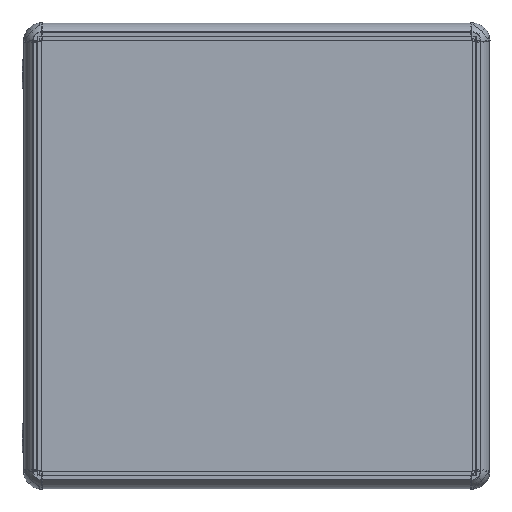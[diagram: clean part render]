
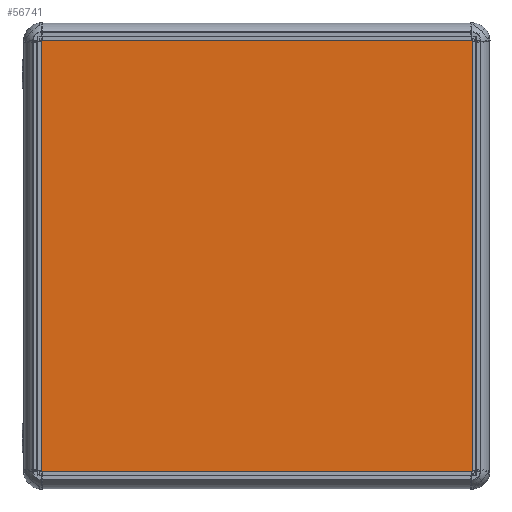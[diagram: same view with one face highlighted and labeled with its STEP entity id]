
A CAD part, top view. The second image highlights one B-rep face of the part: STEP entity #56741.
In plain terms, the highlighted planar face has unit normal (0, 0, 1).
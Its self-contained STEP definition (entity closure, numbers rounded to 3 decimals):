
#2783 = FACE_OUTER_BOUND ( 'NONE', #101855, .T. ) ;
#3227 = DIRECTION ( 'NONE',  ( 0., 1., 0. ) ) ;
#6971 = CARTESIAN_POINT ( 'NONE',  ( 300., -300., 2. ) ) ;
#13001 = EDGE_CURVE ( 'NONE', #145265, #113549, #154186, .T. ) ;
#13794 = ORIENTED_EDGE ( 'NONE', *, *, #13001, .T. ) ;
#14993 = LINE ( 'NONE', #127714, #154156 ) ;
#19983 = CARTESIAN_POINT ( 'NONE',  ( 300., 300., 2. ) ) ;
#25619 = DIRECTION ( 'NONE',  ( 0., -1., 0. ) ) ;
#27205 = PLANE ( 'NONE',  #131438 ) ;
#39779 = ORIENTED_EDGE ( 'NONE', *, *, #156329, .T. ) ;
#53897 = CARTESIAN_POINT ( 'NONE',  ( -300., 300., 2. ) ) ;
#55345 = VERTEX_POINT ( 'NONE', #152513 ) ;
#56741 = ADVANCED_FACE ( 'NONE', ( #2783 ), #27205, .T. ) ;
#59107 = ORIENTED_EDGE ( 'NONE', *, *, #111506, .T. ) ;
#64723 = LINE ( 'NONE', #114186, #126860 ) ;
#66084 = LINE ( 'NONE', #53897, #139045 ) ;
#77675 = DIRECTION ( 'NONE',  ( 1., 0., 0. ) ) ;
#101855 = EDGE_LOOP ( 'NONE', ( #13794, #39779, #127870, #59107 ) ) ;
#111506 = EDGE_CURVE ( 'NONE', #121374, #145265, #64723, .T. ) ;
#113124 = CARTESIAN_POINT ( 'NONE',  ( 0., 0., 2. ) ) ;
#113549 = VERTEX_POINT ( 'NONE', #19983 ) ;
#114186 = CARTESIAN_POINT ( 'NONE',  ( -300., -300., 2. ) ) ;
#121374 = VERTEX_POINT ( 'NONE', #158614 ) ;
#123900 = VECTOR ( 'NONE', #3227, 1000. ) ;
#126860 = VECTOR ( 'NONE', #77675, 1000. ) ;
#127714 = CARTESIAN_POINT ( 'NONE',  ( -300., 300., 2. ) ) ;
#127870 = ORIENTED_EDGE ( 'NONE', *, *, #137066, .T. ) ;
#128140 = CARTESIAN_POINT ( 'NONE',  ( 300., 300., 2. ) ) ;
#131438 = AXIS2_PLACEMENT_3D ( 'NONE', #113124, #141537, #140738 ) ;
#137066 = EDGE_CURVE ( 'NONE', #55345, #121374, #14993, .T. ) ;
#139045 = VECTOR ( 'NONE', #153014, 1000. ) ;
#140738 = DIRECTION ( 'NONE',  ( 1., 0., 0. ) ) ;
#141537 = DIRECTION ( 'NONE',  ( 0., 0., 1. ) ) ;
#145265 = VERTEX_POINT ( 'NONE', #6971 ) ;
#152513 = CARTESIAN_POINT ( 'NONE',  ( -300., 300., 2. ) ) ;
#153014 = DIRECTION ( 'NONE',  ( -1., 0., 0. ) ) ;
#154156 = VECTOR ( 'NONE', #25619, 1000. ) ;
#154186 = LINE ( 'NONE', #128140, #123900 ) ;
#156329 = EDGE_CURVE ( 'NONE', #113549, #55345, #66084, .T. ) ;
#158614 = CARTESIAN_POINT ( 'NONE',  ( -300., -300., 2. ) ) ;
